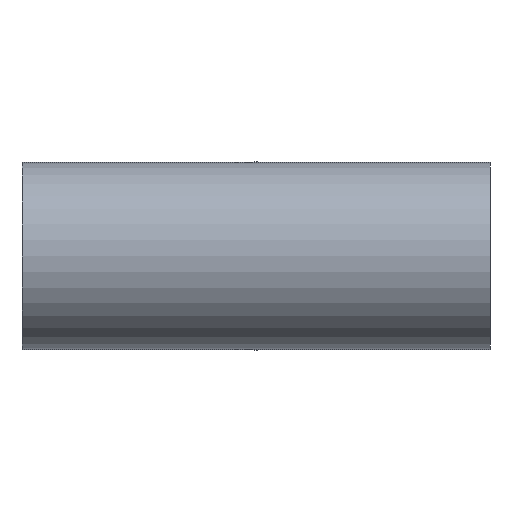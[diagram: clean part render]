
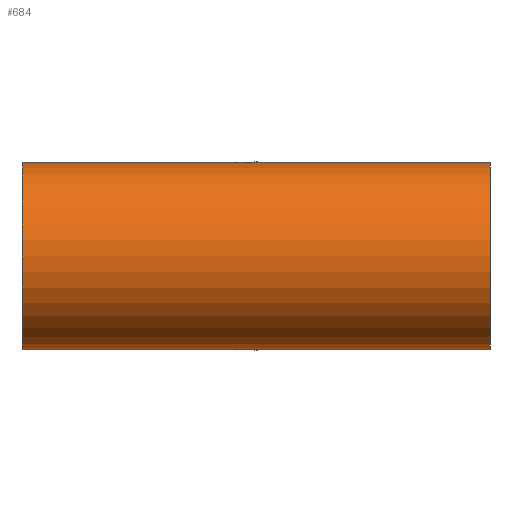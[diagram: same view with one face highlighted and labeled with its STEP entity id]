
A CAD part, front view. The second image highlights one B-rep face of the part: STEP entity #684.
In plain terms, the highlighted cylindrical face has radius 31.75 mm (diameter 63.5 mm), a partial arc.
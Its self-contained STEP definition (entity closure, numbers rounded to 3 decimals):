
#73 = CYLINDRICAL_SURFACE ( 'NONE', #287, 31.75 ) ;
#76 = EDGE_LOOP ( 'NONE', ( #897, #1700, #345, #1086 ) ) ;
#166 = AXIS2_PLACEMENT_3D ( 'NONE', #1227, #1211, #1196 ) ;
#194 = CARTESIAN_POINT ( 'NONE',  ( -79.4, 0., 31.75 ) ) ;
#287 = AXIS2_PLACEMENT_3D ( 'NONE', #406, #845, #1161 ) ;
#315 = CARTESIAN_POINT ( 'NONE',  ( -79.4, 0., -31.75 ) ) ;
#322 = VECTOR ( 'NONE', #1399, 1000. ) ;
#345 = ORIENTED_EDGE ( 'NONE', *, *, #903, .T. ) ;
#380 = LINE ( 'NONE', #1310, #322 ) ;
#406 = CARTESIAN_POINT ( 'NONE',  ( -79.4, 0., 0. ) ) ;
#462 = AXIS2_PLACEMENT_3D ( 'NONE', #1169, #1277, #1037 ) ;
#507 = CIRCLE ( 'NONE', #166, 31.75 ) ;
#537 = DIRECTION ( 'NONE',  ( 1., 0., 0. ) ) ;
#552 = FACE_OUTER_BOUND ( 'NONE', #76, .T. ) ;
#684 = ADVANCED_FACE ( 'NONE', ( #552 ), #73, .T. ) ;
#702 = EDGE_CURVE ( 'NONE', #761, #1400, #507, .T. ) ;
#742 = VECTOR ( 'NONE', #537, 1000. ) ;
#761 = VERTEX_POINT ( 'NONE', #1427 ) ;
#812 = VERTEX_POINT ( 'NONE', #194 ) ;
#845 = DIRECTION ( 'NONE',  ( 1., 0., 0. ) ) ;
#897 = ORIENTED_EDGE ( 'NONE', *, *, #928, .F. ) ;
#903 = EDGE_CURVE ( 'NONE', #976, #761, #1551, .T. ) ;
#928 = EDGE_CURVE ( 'NONE', #812, #1400, #380, .T. ) ;
#976 = VERTEX_POINT ( 'NONE', #315 ) ;
#1037 = DIRECTION ( 'NONE',  ( 0., 0., -1. ) ) ;
#1086 = ORIENTED_EDGE ( 'NONE', *, *, #702, .T. ) ;
#1161 = DIRECTION ( 'NONE',  ( 0., 0., -1. ) ) ;
#1169 = CARTESIAN_POINT ( 'NONE',  ( -79.4, 0., 0. ) ) ;
#1196 = DIRECTION ( 'NONE',  ( 0., 0., -1. ) ) ;
#1211 = DIRECTION ( 'NONE',  ( -1., 0., 0. ) ) ;
#1221 = CIRCLE ( 'NONE', #462, 31.75 ) ;
#1227 = CARTESIAN_POINT ( 'NONE',  ( 79.4, 0., 0. ) ) ;
#1257 = EDGE_CURVE ( 'NONE', #812, #976, #1221, .T. ) ;
#1277 = DIRECTION ( 'NONE',  ( 1., 0., 0. ) ) ;
#1310 = CARTESIAN_POINT ( 'NONE',  ( -79.4, 0., 31.75 ) ) ;
#1399 = DIRECTION ( 'NONE',  ( 1., 0., 0. ) ) ;
#1400 = VERTEX_POINT ( 'NONE', #1750 ) ;
#1427 = CARTESIAN_POINT ( 'NONE',  ( 79.4, 0., -31.75 ) ) ;
#1551 = LINE ( 'NONE', #1671, #742 ) ;
#1671 = CARTESIAN_POINT ( 'NONE',  ( -79.4, 0., -31.75 ) ) ;
#1700 = ORIENTED_EDGE ( 'NONE', *, *, #1257, .T. ) ;
#1750 = CARTESIAN_POINT ( 'NONE',  ( 79.4, 0., 31.75 ) ) ;
